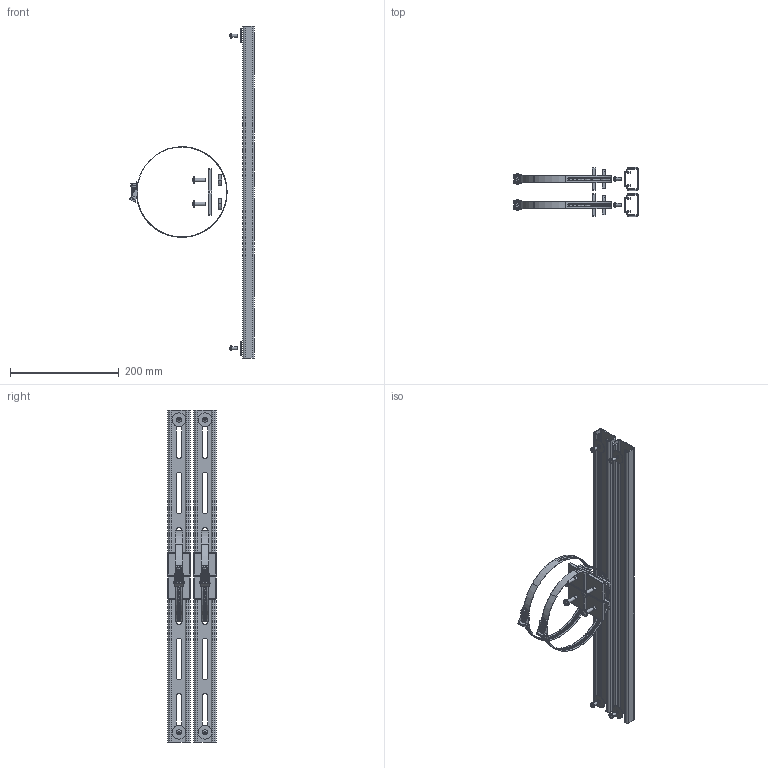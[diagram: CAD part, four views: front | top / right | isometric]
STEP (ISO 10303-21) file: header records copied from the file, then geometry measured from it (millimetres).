
FILE_DESCRIPTION (( 'STEP AP214' ), '1' );
FILE_NAME ('PK-241.STEP', '2020-04-09T13:22:45', ( '' ), ( '' ), 'SwSTEP 2.0', 'SolidWorks 2016', '' );
FILE_SCHEMA (( 'AUTOMOTIVE_DESIGN' ));
Length unit declared in the file: inch
Products named in the file (8): pan cross head_ai_CR-PHMS 0.25-20x0.75x0.75-C; SW-001_default; pan cross head_am_SCREWS-042; SC-xxx_SC-240; flat washer type b wide_ai_Wide FW  0.25 X 1.00; PK-241; SN-001_CNN20025ST; CL-01_small
Assembly tree (24 placements, depth 2):
  PK-241
    SC-xxx_SC-240  x2
    SW-001_default  x4
    pan cross head_ai_CR-PHMS 0.25-20x0.75x0.75-C  x4
    flat washer type b wide_ai_Wide FW  0.25 X 1.00  x4
    SN-001_CNN20025ST  x4
    CL-01_small  x2
    pan cross head_am_SCREWS-042  x4
Bounding box: 228.26 x 89.1 x 609.6 mm (x, y, z)
Volume: 285610.4 mm3; surface area: 302261.1 mm2
Topology: 128 solids, 128 shells, 2736 faces, 7034 edges, 4570 vertices
Faces by surface type: bspline 1242, plane 1060, cylinder 378, cone 32, sphere 12, torus 12
Full cylindrical faces by diameter (mm): 5 x4, 5.588 x2, 6.35 x4, 6.604 x2, 7.137 x4, 7.938 x4, 8.533 x12, 9.5 x4, 12.497 x4, 25.4 x4
Entity records: 60409 total; most frequent: CARTESIAN_POINT 37512, ORIENTED_EDGE 6182, EDGE_CURVE 3091, DIRECTION 2405, VERTEX_POINT 2040, EDGE_LOOP 1459, FACE_OUTER_BOUND 1111, ADVANCED_FACE 1095
